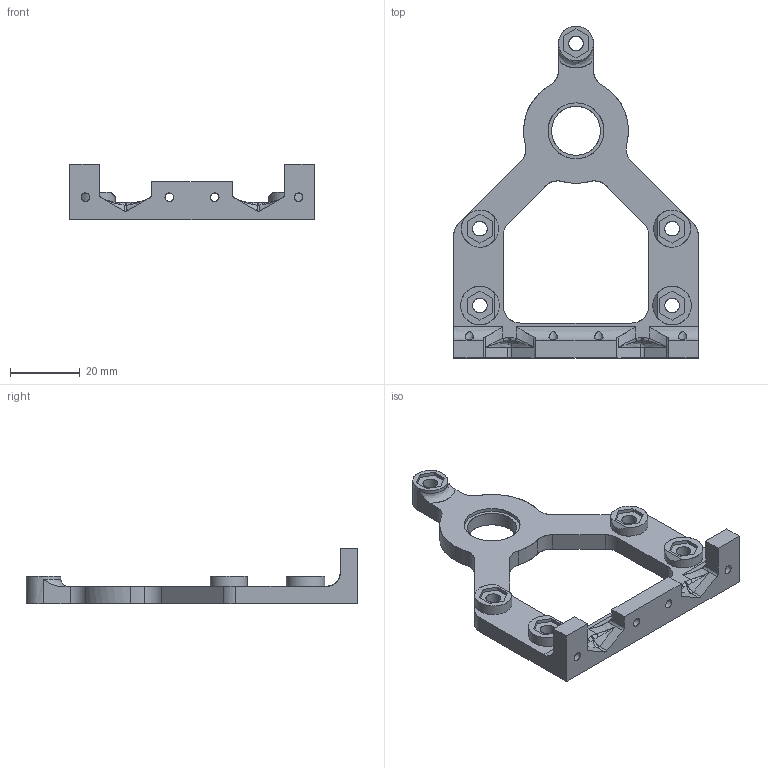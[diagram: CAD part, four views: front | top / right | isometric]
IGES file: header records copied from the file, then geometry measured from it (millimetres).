
Start section: C
Global section: file name: asmhousing1.igs; native system:  By UGS Corp.; preprocessor: XPlus GENERIC/IGES 3.0; author: Author; organization: Title; date: 20121205.205445; units: millimetre
Bounding box: 70 x 95 x 16 mm (x, y, z)
Surface area: 9673.6 mm2 (no closed solid volume)
Topology: 0 solids, 0 shells, 136 faces, 764 edges, 760 vertices
Faces by surface type: bspline 136
